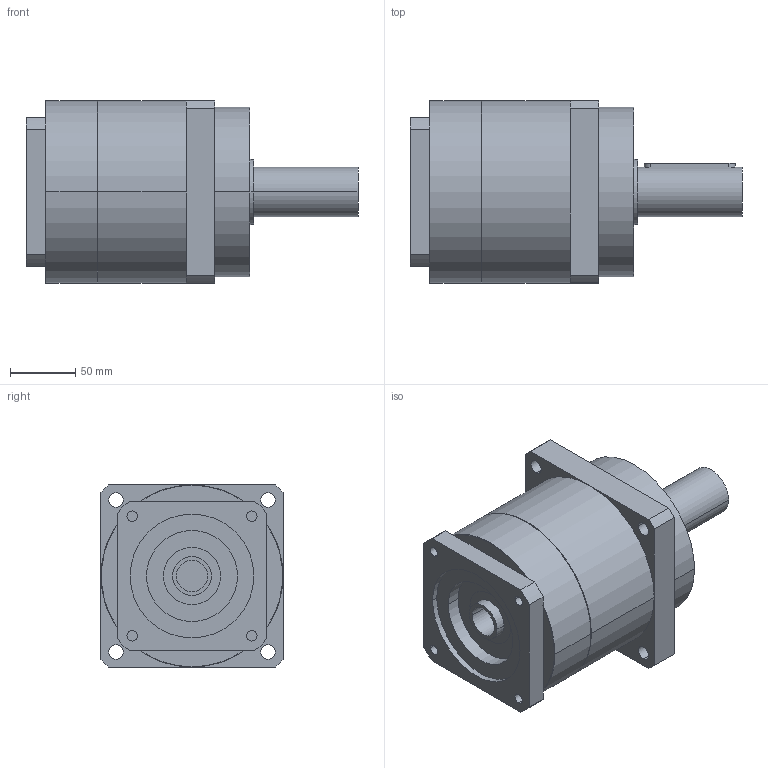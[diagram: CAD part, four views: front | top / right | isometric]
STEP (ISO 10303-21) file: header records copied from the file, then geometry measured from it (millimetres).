
FILE_DESCRIPTION(('CoCreate Modeling STEP Export'),'2;1');
FILE_NAME('GPR150_ig-3-4-5-7_38_B5_24_P10.stp','2014-08-19T16:42:28',(''),(''),'CoCreate Modeling STEP processor for AP214 (Solid Model)','CoCreate Modeling 16.00C 25-Feb-2009 (C) Parametric Technology GmbH','');
FILE_SCHEMA(('AUTOMOTIVE_DESIGN { 1 0 10303 214 1 1 1 1 }'));
Length unit declared in the file: millimetre
Products named in the file (2): GPR150_ig-3-4-5-7_38_B5_24_P10
Assembly tree (1 placements, depth 2):
  GPR150_ig-3-4-5-7_38_B5_24_P10
    GPR150_ig-3-4-5-7_38_B5_24_P10
Bounding box: 255 x 140 x 140 mm (x, y, z)
Volume: 2641668.7 mm3; surface area: 140334.9 mm2
Topology: 1 solids, 1 shells, 92 faces, 231 edges, 153 vertices
Faces by surface type: cylinder 48, plane 38, cone 6
Entity records: 2408 total; most frequent: ORIENTED_EDGE 458, CARTESIAN_POINT 439, DIRECTION 336, EDGE_CURVE 229, VERTEX_POINT 153, AXIS2_PLACEMENT_3D 122, EDGE_LOOP 114, VECTOR 92
